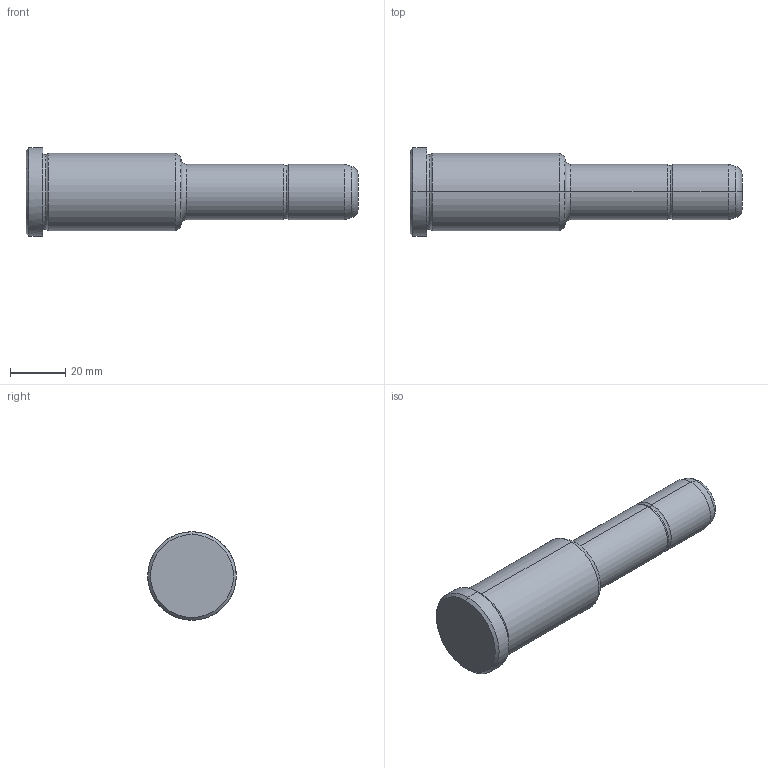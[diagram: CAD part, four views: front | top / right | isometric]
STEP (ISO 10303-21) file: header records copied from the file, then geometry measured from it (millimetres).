
FILE_DESCRIPTION(('CATIA V5 STEP Exchange'),'2;1');
FILE_NAME('C:\Users\Utente\Desktop\IO LAVORO\3D X SITO CF\X SITO\PLASTICA\351\351-20X56X120.stp','2021-08-27T12:49:12+00:00',('none'),('none'),'CATIA Version 5 Release 20 GA (IN-10)','CATIA V5 STEP AP203','none');
FILE_SCHEMA(('CONFIG_CONTROL_DESIGN'));
Length unit declared in the file: millimetre
Products named in the file (1): 351-20X56X120
Bounding box: 120 x 32 x 32 mm (x, y, z)
Volume: 55270.1 mm3; surface area: 10350.1 mm2
Topology: 1 solids, 1 shells, 30 faces, 86 edges, 60 vertices
Faces by surface type: torus 12, cylinder 8, cone 6, plane 4
Entity records: 1112 total; most frequent: CARTESIAN_POINT 289, ORIENTED_EDGE 172, DIRECTION 138, AXIS2_PLACEMENT_3D 95, EDGE_CURVE 86, CIRCLE 64, VERTEX_POINT 60, EDGE_LOOP 32
